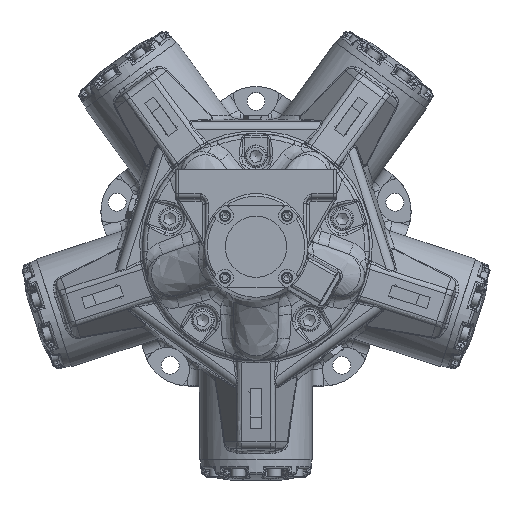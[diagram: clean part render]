
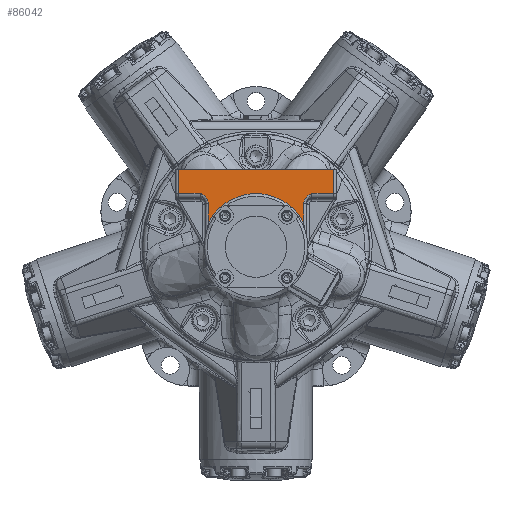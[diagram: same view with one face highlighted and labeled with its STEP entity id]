
A CAD part, top view. The second image highlights one B-rep face of the part: STEP entity #86042.
In plain terms, the highlighted planar face has unit normal (0, 0, 1).
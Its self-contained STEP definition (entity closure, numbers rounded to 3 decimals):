
#6810=B_SPLINE_CURVE_WITH_KNOTS('',3,(#200547,#200548,#200549,#200550,#200551,
#200552,#200553,#200554,#200555,#200556,#200557,#200558),.UNSPECIFIED.,
 .F.,.F.,(4,2,1,1,1,1,1,1,4),(-0.001,0.,0.308,
0.616,0.924,1.079,1.233,1.387,
1.541),.UNSPECIFIED.);
#6814=B_SPLINE_CURVE_WITH_KNOTS('',3,(#200654,#200655,#200656,#200657,#200658,
#200659,#200660,#200661,#200662,#200663,#200664),.UNSPECIFIED.,.F.,.F.,
(4,1,1,1,1,1,2,4),(0.,0.308,0.616,0.77,
0.924,1.233,1.541,1.542),
 .UNSPECIFIED.);
#11651=CIRCLE('',#92970,59.607);
#16689=FACE_OUTER_BOUND('',#22068,.T.);
#22068=EDGE_LOOP('',(#70419,#70420,#70421,#70422,#70423,#70424,#70425,#70426,
#70427,#70428));
#26020=LINE('',#200416,#30010);
#26026=LINE('',#200589,#30016);
#26069=LINE('',#202379,#30059);
#26090=LINE('',#202883,#30080);
#26115=LINE('',#204208,#30105);
#26116=LINE('',#204211,#30106);
#26117=LINE('',#204212,#30107);
#30010=VECTOR('',#108825,10.);
#30016=VECTOR('',#108893,10.);
#30059=VECTOR('',#109122,10.);
#30080=VECTOR('',#109255,10.);
#30105=VECTOR('',#109418,10.);
#30106=VECTOR('',#109421,10.);
#30107=VECTOR('',#109422,10.);
#36661=VERTEX_POINT('',#200412);
#36663=VERTEX_POINT('',#200415);
#36683=VERTEX_POINT('',#200545);
#36684=VERTEX_POINT('',#200560);
#36688=VERTEX_POINT('',#200579);
#36690=VERTEX_POINT('',#200588);
#36774=VERTEX_POINT('',#202377);
#36819=VERTEX_POINT('',#202868);
#36890=VERTEX_POINT('',#204206);
#36891=VERTEX_POINT('',#204210);
#47904=EDGE_CURVE('',#36661,#36663,#26020,.T.);
#47931=EDGE_CURVE('',#36663,#36683,#6810,.T.);
#47937=EDGE_CURVE('',#36688,#36690,#26026,.T.);
#47941=EDGE_CURVE('',#36690,#36684,#6814,.T.);
#48098=EDGE_CURVE('',#36684,#36774,#26069,.T.);
#48177=EDGE_CURVE('',#36683,#36819,#26090,.T.);
#48187=EDGE_CURVE('',#36819,#36688,#11651,.T.);
#48306=EDGE_CURVE('',#36774,#36890,#26115,.T.);
#48307=EDGE_CURVE('',#36891,#36890,#26116,.T.);
#48308=EDGE_CURVE('',#36891,#36661,#26117,.T.);
#70419=ORIENTED_EDGE('',*,*,#48307,.T.);
#70420=ORIENTED_EDGE('',*,*,#48306,.F.);
#70421=ORIENTED_EDGE('',*,*,#48098,.F.);
#70422=ORIENTED_EDGE('',*,*,#47941,.F.);
#70423=ORIENTED_EDGE('',*,*,#47937,.F.);
#70424=ORIENTED_EDGE('',*,*,#48187,.F.);
#70425=ORIENTED_EDGE('',*,*,#48177,.F.);
#70426=ORIENTED_EDGE('',*,*,#47931,.F.);
#70427=ORIENTED_EDGE('',*,*,#47904,.F.);
#70428=ORIENTED_EDGE('',*,*,#48308,.F.);
#76154=PLANE('',#93032);
#86042=ADVANCED_FACE('',(#16689),#76154,.T.);
#92970=AXIS2_PLACEMENT_3D('',#203000,#109270,#109271);
#93032=AXIS2_PLACEMENT_3D('',#204209,#109419,#109420);
#108825=DIRECTION('',(-1.,0.,0.));
#108893=DIRECTION('',(0.,1.,0.));
#109122=DIRECTION('',(-1.,0.,0.));
#109255=DIRECTION('',(0.,-1.,0.));
#109270=DIRECTION('center_axis',(0.,0.,
1.));
#109271=DIRECTION('ref_axis',(0.,1.,0.));
#109418=DIRECTION('',(0.,1.,0.));
#109419=DIRECTION('center_axis',(0.,0.,
1.));
#109420=DIRECTION('ref_axis',(-1.,0.,0.));
#109421=DIRECTION('',(-1.,0.,0.));
#109422=DIRECTION('',(0.,-1.,0.));
#200412=CARTESIAN_POINT('',(87.,60.,263.68));
#200415=CARTESIAN_POINT('',(62.5,60.,263.68));
#200416=CARTESIAN_POINT('',(-45.,60.,263.68));
#200545=CARTESIAN_POINT('',(53.5,48.381,263.68));
#200547=CARTESIAN_POINT('Ctrl Pts',(62.5,60.,263.68));
#200548=CARTESIAN_POINT('Ctrl Pts',(62.496,59.998,263.68));
#200549=CARTESIAN_POINT('Ctrl Pts',(62.492,59.996,263.68));
#200550=CARTESIAN_POINT('Ctrl Pts',(61.599,59.48,263.68));
#200551=CARTESIAN_POINT('Ctrl Pts',(59.816,58.451,263.68));
#200552=CARTESIAN_POINT('Ctrl Pts',(57.308,56.591,263.68));
#200553=CARTESIAN_POINT('Ctrl Pts',(55.591,54.67,263.68));
#200554=CARTESIAN_POINT('Ctrl Pts',(54.535,52.873,263.68));
#200555=CARTESIAN_POINT('Ctrl Pts',(53.952,51.447,263.68));
#200556=CARTESIAN_POINT('Ctrl Pts',(53.582,49.928,263.68));
#200557=CARTESIAN_POINT('Ctrl Pts',(53.5,48.895,263.68));
#200558=CARTESIAN_POINT('Ctrl Pts',(53.5,48.381,263.68));
#200560=CARTESIAN_POINT('',(-62.5,60.,263.68));
#200579=CARTESIAN_POINT('',(-53.5,26.281,263.68));
#200588=CARTESIAN_POINT('',(-53.5,48.381,263.68));
#200589=CARTESIAN_POINT('',(-53.5,5.874,263.68));
#200654=CARTESIAN_POINT('Ctrl Pts',(-53.5,48.381,263.68));
#200655=CARTESIAN_POINT('Ctrl Pts',(-53.5,49.408,
263.68));
#200656=CARTESIAN_POINT('Ctrl Pts',(-53.839,51.486,
263.68));
#200657=CARTESIAN_POINT('Ctrl Pts',(-55.004,53.806,
263.68));
#200658=CARTESIAN_POINT('Ctrl Pts',(-56.28,55.44,263.68));
#200659=CARTESIAN_POINT('Ctrl Pts',(-57.723,56.899,
263.68));
#200660=CARTESIAN_POINT('Ctrl Pts',(-59.819,58.452,
263.68));
#200661=CARTESIAN_POINT('Ctrl Pts',(-61.599,59.48,
263.68));
#200662=CARTESIAN_POINT('Ctrl Pts',(-62.492,59.996,
263.68));
#200663=CARTESIAN_POINT('Ctrl Pts',(-62.496,59.998,
263.68));
#200664=CARTESIAN_POINT('Ctrl Pts',(-62.5,60.,263.68));
#202377=CARTESIAN_POINT('',(-87.,60.,263.68));
#202379=CARTESIAN_POINT('',(-45.,60.,263.68));
#202868=CARTESIAN_POINT('',(53.5,26.281,263.68));
#202883=CARTESIAN_POINT('',(53.5,79.429,263.68));
#203000=CARTESIAN_POINT('Origin',(0.,0.,
263.68));
#204206=CARTESIAN_POINT('',(-87.,87.1,263.68));
#204208=CARTESIAN_POINT('',(-87.,90.,263.68));
#204209=CARTESIAN_POINT('Origin',(-90.,90.,263.68));
#204210=CARTESIAN_POINT('',(87.,87.1,263.68));
#204211=CARTESIAN_POINT('',(-40.349,87.1,263.68));
#204212=CARTESIAN_POINT('',(87.,90.,263.68));
